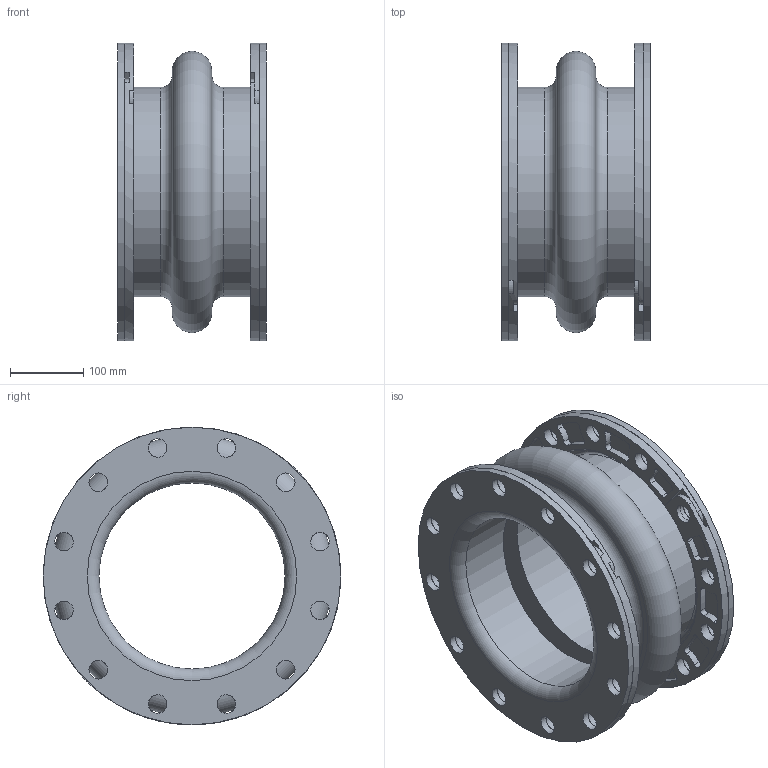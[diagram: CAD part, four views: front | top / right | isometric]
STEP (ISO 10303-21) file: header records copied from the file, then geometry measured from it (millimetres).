
FILE_DESCRIPTION(/* description */ (''),/* implementation_level */ '2;1');
FILE_NAME(/* name */ 'C:\001_Work\Designs\Mercer2014\MQInventor2014\RajR\500 Style\501\New folder\501 10IDx8FF.stp',/* time_stamp */ '2016-03-26T14:26:36-04:00',/* author */ ('rramoutar'),/* organization */ ('Mason Industries Inc.'),/* preprocessor_version */ 'ST-DEVELOPER v15.6',/* originating_system */ 'Autodesk Inventor 2015',/* authorisation */ '');
FILE_SCHEMA (('CONFIG_CONTROL_DESIGN'));
Length unit declared in the file: inch
Products named in the file (1): 501 10IDx8FF
Bounding box: 203.2 x 406.4 x 406.4 mm (x, y, z)
Volume: 6106048.4 mm3; surface area: 1110267.2 mm2
Topology: 3 solids, 3 shells, 350 faces, 944 edges, 622 vertices
Faces by surface type: cylinder 262, plane 68, torus 16, cone 4
Full cylindrical faces by diameter (mm): 25.4 x50, 254 x2, 285.75 x2, 304.8 x1, 406.4 x3
Entity records: 11695 total; most frequent: DIRECTION 2118, CARTESIAN_POINT 2091, ORIENTED_EDGE 1736, AXIS2_PLACEMENT_3D 915, EDGE_CURVE 868, VERTEX_POINT 616, CIRCLE 564, EDGE_LOOP 544
